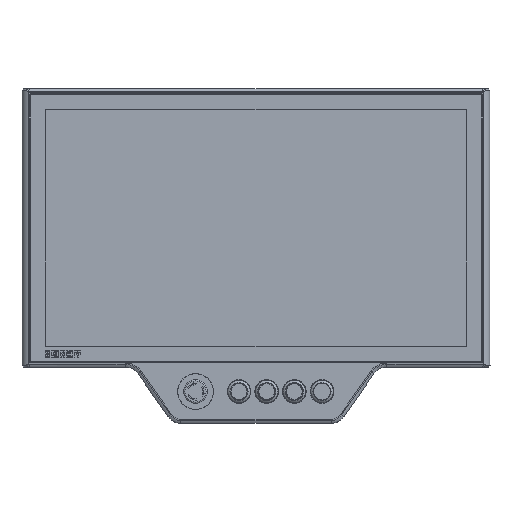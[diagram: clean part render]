
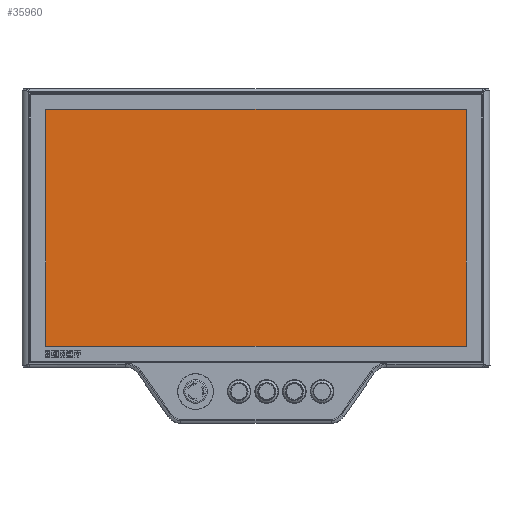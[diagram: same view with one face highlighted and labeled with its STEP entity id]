
A CAD part, top view. The second image highlights one B-rep face of the part: STEP entity #35960.
In plain terms, the highlighted planar face has unit normal (0, 0, 1).
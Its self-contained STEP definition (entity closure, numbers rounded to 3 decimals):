
#1409=PLANE('',#38835);
#4084=LINE('',#61003,#6580);
#4085=LINE('',#61005,#6581);
#4086=LINE('',#61007,#6582);
#4087=LINE('',#61008,#6583);
#6580=VECTOR('',#45983,10.);
#6581=VECTOR('',#45984,10.);
#6582=VECTOR('',#45985,10.);
#6583=VECTOR('',#45986,10.);
#8561=FACE_OUTER_BOUND('',#10587,.T.);
#10587=EDGE_LOOP('',(#28101,#28102,#28103,#28104));
#15731=VERTEX_POINT('',#61001);
#15732=VERTEX_POINT('',#61002);
#15733=VERTEX_POINT('',#61004);
#15734=VERTEX_POINT('',#61006);
#20116=EDGE_CURVE('',#15731,#15732,#4084,.T.);
#20117=EDGE_CURVE('',#15733,#15731,#4085,.T.);
#20118=EDGE_CURVE('',#15734,#15733,#4086,.T.);
#20119=EDGE_CURVE('',#15732,#15734,#4087,.T.);
#28101=ORIENTED_EDGE('',*,*,#20116,.T.);
#28102=ORIENTED_EDGE('',*,*,#20119,.T.);
#28103=ORIENTED_EDGE('',*,*,#20118,.T.);
#28104=ORIENTED_EDGE('',*,*,#20117,.T.);
#35960=ADVANCED_FACE('',(#8561),#1409,.T.);
#38835=AXIS2_PLACEMENT_3D('',#61108,#46101,#46102);
#45983=DIRECTION('',(0.,1.,0.));
#45984=DIRECTION('',(1.,0.,0.));
#45985=DIRECTION('',(0.,-1.,0.));
#45986=DIRECTION('',(-1.,0.,0.));
#46101=DIRECTION('center_axis',(0.,0.,
1.));
#46102=DIRECTION('ref_axis',(1.,0.,0.));
#61001=CARTESIAN_POINT('',(266.1,-149.9,0.8));
#61002=CARTESIAN_POINT('',(266.1,149.9,0.8));
#61003=CARTESIAN_POINT('',(266.1,74.95,0.8));
#61004=CARTESIAN_POINT('',(-266.1,-149.9,0.8));
#61005=CARTESIAN_POINT('',(133.05,-149.9,0.8));
#61006=CARTESIAN_POINT('',(-266.1,149.9,0.8));
#61007=CARTESIAN_POINT('',(-266.1,-74.95,0.8));
#61008=CARTESIAN_POINT('',(-133.05,149.9,0.8));
#61108=CARTESIAN_POINT('Origin',(0.,0.,
0.8));
